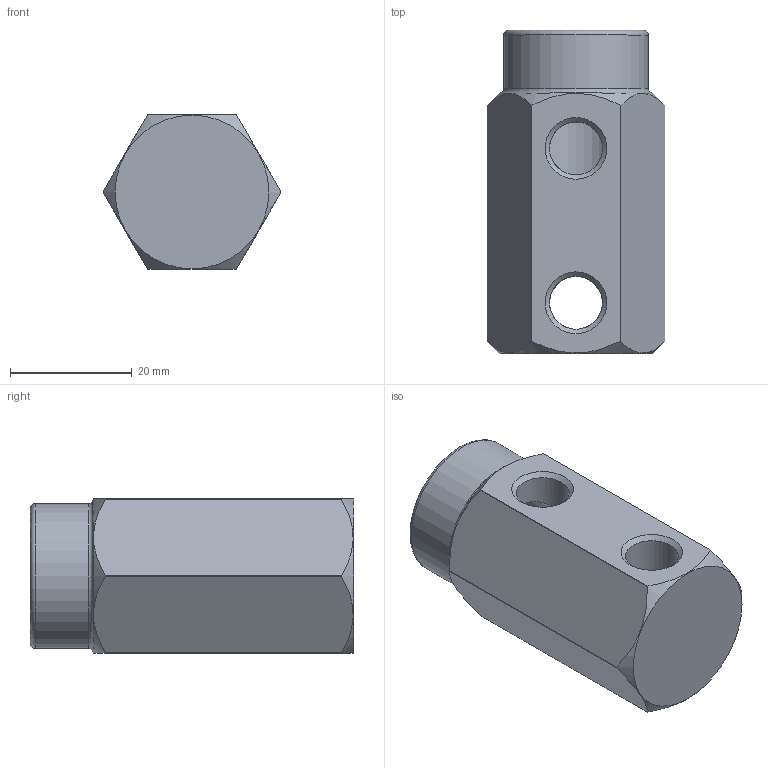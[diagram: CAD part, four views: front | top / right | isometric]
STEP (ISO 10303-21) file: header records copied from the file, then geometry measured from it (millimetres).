
FILE_DESCRIPTION(/* description */ (''),/* implementation_level */ '2;1');
FILE_NAME(/* name */ 'C:/Users/drich/Desktop/381H v2.step',/* time_stamp */ '2020-01-10T20:21:39-06:00',/* author */ (''),/* organization */ (''),/* preprocessor_version */ 'ST-DEVELOPER v18',/* originating_system */ 'Autodesk Translation Framework v8.12.0.6',/* authorisation */ '');
FILE_SCHEMA (('AUTOMOTIVE_DESIGN { 1 0 10303 214 3 1 1 }'));
Length unit declared in the file: inch
Products named in the file (2): 381H; 381H_1
Assembly tree (1 placements, depth 2):
  381H
    381H_1
Bounding box: 29.26 x 53.16 x 25.4 mm (x, y, z)
Volume: 20882.2 mm3; surface area: 7587.6 mm2
Topology: 1 solids, 1 shells, 31 faces, 89 edges, 59 vertices
Faces by surface type: cylinder 12, cone 9, plane 8, torus 2
Full cylindrical faces by diameter (mm): 6.909 x1, 8.707 x3, 15.173 x1, 23.8 x1
Entity records: 1173 total; most frequent: CARTESIAN_POINT 305, ORIENTED_EDGE 178, DIRECTION 175, EDGE_CURVE 89, AXIS2_PLACEMENT_3D 75, VERTEX_POINT 59, CIRCLE 41, EDGE_LOOP 36
